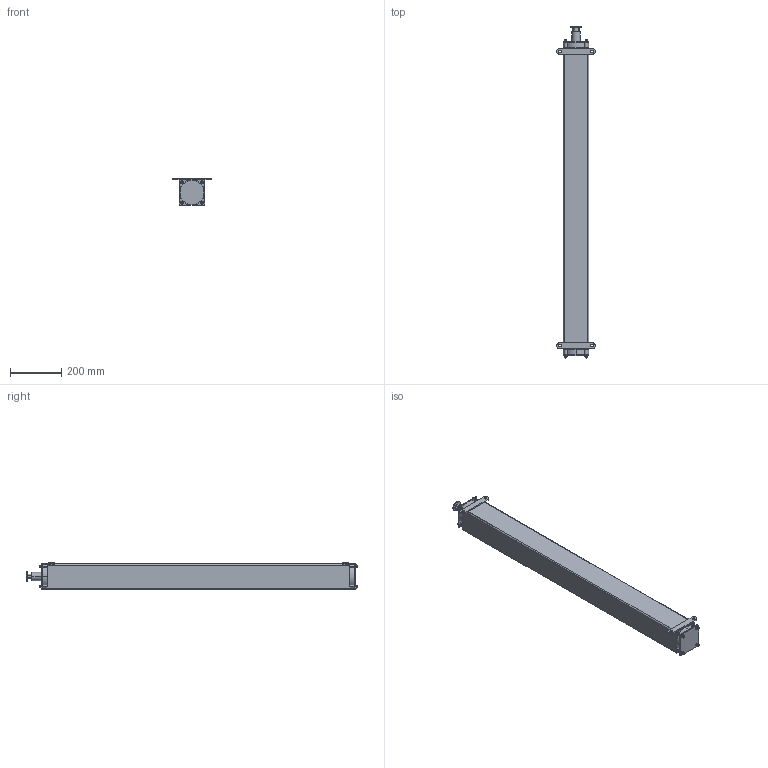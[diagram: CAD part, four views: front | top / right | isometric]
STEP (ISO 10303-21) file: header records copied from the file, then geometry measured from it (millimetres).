
FILE_DESCRIPTION((''),'2;1');
FILE_NAME('EFB-EX_ASM','2021-08-19T10:34:05',('18720616900'),(''),'CREO PARAMETRIC BY PTC INC, 2019010','CREO PARAMETRIC BY PTC INC, 2019010','');
FILE_SCHEMA(('CONFIG_CONTROL_DESIGN'));
Length unit declared in the file: millimetre
Products named in the file (6): EFB-EX-115; M6-50-0001; M6-1--00; M6-1-00; 0001_ASM; EFB-EX_ASM
Assembly tree (12 placements, depth 3):
  EFB-EX_ASM
    EFB-EX-115
    0001_ASM  x8
      M6-50-0001
      M6-1--00
      M6-1-00
Bounding box: 150 x 1299.5 x 104 mm (x, y, z)
Volume: 1494962.5 mm3; surface area: 967844.8 mm2
Topology: 25 solids, 33 shells, 1247 faces, 3234 edges, 2074 vertices
Faces by surface type: cone 488, plane 265, bspline 264, cylinder 180, torus 50
Entity records: 19589 total; most frequent: CARTESIAN_POINT 10835, ORIENTED_EDGE 1802, DIRECTION 1738, EDGE_CURVE 917, AXIS2_PLACEMENT_3D 653, VERTEX_POINT 597, VECTOR 432, LINE 432
